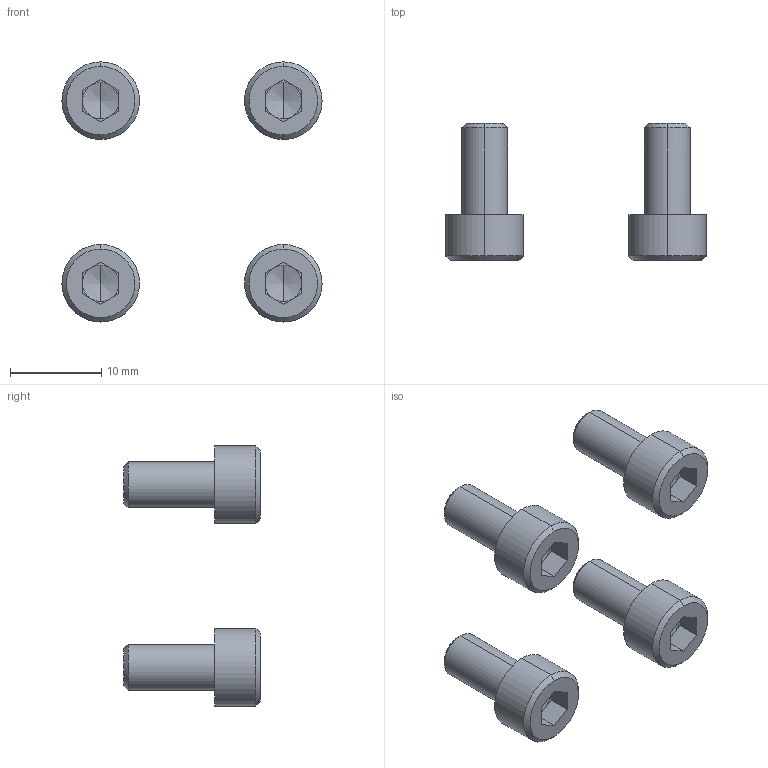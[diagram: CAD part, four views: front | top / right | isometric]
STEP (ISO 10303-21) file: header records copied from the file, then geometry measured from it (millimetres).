
FILE_DESCRIPTION(/* description */ (''),/* implementation_level */ '2;1');
FILE_NAME(/* name */ '6.y-drive#6.1#CB5-10',/* time_stamp */ '2014-12-01T20:13:39+01:00',/* author */ (''),/* organization */ (''),/* preprocessor_version */ 'ST-DEVELOPER v14',/* originating_system */ '',/* authorisation */ '');
FILE_SCHEMA (('AUTOMOTIVE_DESIGN'));
Length unit declared in the file: millimetre
Products named in the file (2): Document; screw DIN912-like, M5x10
Assembly tree (4 placements, depth 2):
  Document
    screw DIN912-like, M5x10  x4
Bounding box: 28.5 x 15 x 28.5 mm (x, y, z)
Volume: 1753.3 mm3; surface area: 1705.2 mm2
Topology: 4 solids, 4 shells, 100 faces, 224 edges, 132 vertices
Faces by surface type: plane 60, bspline 40
Entity records: 1429 total; most frequent: CARTESIAN_POINT 635, B_SPLINE_CURVE_WITH_KNOTS 126, ORIENTED_EDGE 108, PCURVE 108, DEFINITIONAL_REPRESENTATION 108, SURFACE_CURVE 54, EDGE_CURVE 54, VERTEX_POINT 33
